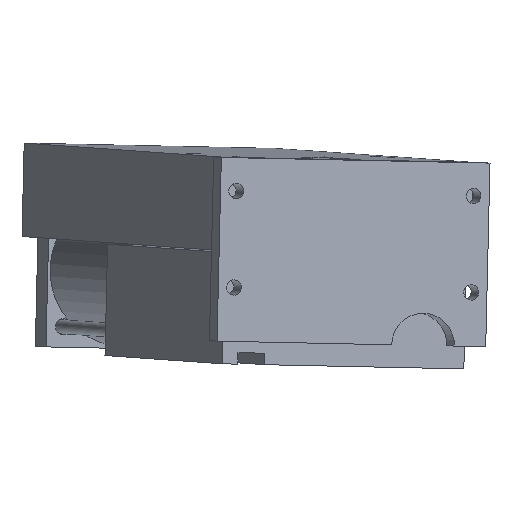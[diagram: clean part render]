
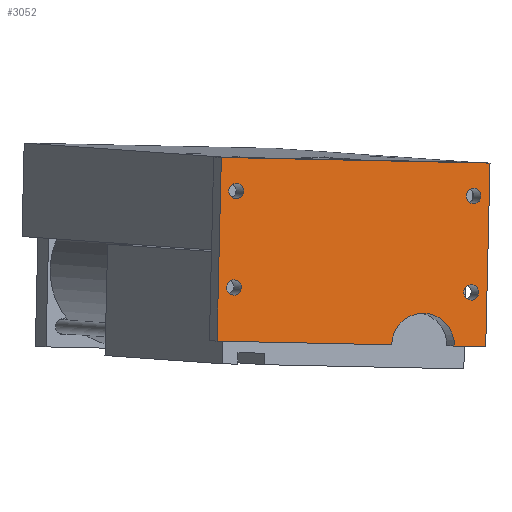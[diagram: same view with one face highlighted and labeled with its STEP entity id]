
A CAD part, front view. The second image highlights one B-rep face of the part: STEP entity #3052.
In plain terms, the highlighted planar face has unit normal (0.222, -0.975, -0.016).
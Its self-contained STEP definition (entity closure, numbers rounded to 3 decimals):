
#2716=CARTESIAN_POINT('',(87.14,-129.59,95.102));
#2717=VERTEX_POINT('',#2716);
#2718=CARTESIAN_POINT('',(83.9,-130.327,95.17));
#2719=DIRECTION('',(-0.222,0.975,0.016));
#2720=DIRECTION('',(0.975,0.222,-0.02));
#2721=AXIS2_PLACEMENT_3D('',#2718,#2719,#2720);
#2722=CIRCLE('',#2721,3.324);
#2723=EDGE_CURVE('',#2717,#2717,#2722,.T.);
#2757=CARTESIAN_POINT('',(-16.195,-153.109,97.268));
#2758=VERTEX_POINT('',#2757);
#2759=CARTESIAN_POINT('',(-19.435,-153.846,97.336));
#2760=DIRECTION('',(-0.222,0.975,0.016));
#2761=DIRECTION('',(0.975,0.222,-0.02));
#2762=AXIS2_PLACEMENT_3D('',#2759,#2760,#2761);
#2763=CIRCLE('',#2762,3.324);
#2764=EDGE_CURVE('',#2758,#2758,#2763,.T.);
#2814=CARTESIAN_POINT('',(88.122,-130.038,137.088));
#2815=VERTEX_POINT('',#2814);
#2816=CARTESIAN_POINT('',(84.882,-130.776,137.156));
#2817=DIRECTION('',(-0.222,0.975,0.016));
#2818=DIRECTION('',(0.975,0.222,-0.02));
#2819=AXIS2_PLACEMENT_3D('',#2816,#2817,#2818);
#2820=CIRCLE('',#2819,3.324);
#2821=EDGE_CURVE('',#2815,#2815,#2820,.T.);
#2863=CARTESIAN_POINT('',(-15.214,-153.557,139.254));
#2864=VERTEX_POINT('',#2863);
#2865=CARTESIAN_POINT('',(-18.453,-154.295,139.322));
#2866=DIRECTION('',(-0.222,0.975,0.016));
#2867=DIRECTION('',(0.975,0.222,-0.02));
#2868=AXIS2_PLACEMENT_3D('',#2865,#2866,#2867);
#2869=CIRCLE('',#2868,3.324);
#2870=EDGE_CURVE('',#2864,#2864,#2869,.T.);
#2880=CARTESIAN_POINT('',(92.045,-129.378,151.509));
#2881=VERTEX_POINT('',#2880);
#2882=CARTESIAN_POINT('',(90.175,-128.523,71.535));
#2883=VERTEX_POINT('',#2882);
#2884=CARTESIAN_POINT('',(92.045,-129.378,151.509));
#2885=DIRECTION('',(-0.023,0.011,-1.));
#2886=VECTOR('',#2885,80.0);
#2887=LINE('',#2884,#2886);
#2888=EDGE_CURVE('',#2881,#2883,#2887,.T.);
#2911=CARTESIAN_POINT('',(76.526,-131.629,71.821));
#2912=VERTEX_POINT('',#2911);
#2913=CARTESIAN_POINT('',(90.175,-128.523,71.535));
#2914=DIRECTION('',(-0.975,-0.222,0.02));
#2915=VECTOR('',#2914,14.);
#2916=LINE('',#2913,#2915);
#2917=EDGE_CURVE('',#2883,#2912,#2916,.T.);
#2935=CARTESIAN_POINT('',(49.23,-137.842,72.393));
#2936=VERTEX_POINT('',#2935);
#2937=CARTESIAN_POINT('',(62.878,-134.736,72.107));
#2938=DIRECTION('',(0.222,-0.975,-0.016));
#2939=DIRECTION('',(0.975,0.222,-0.02));
#2940=AXIS2_PLACEMENT_3D('',#2937,#2938,#2939);
#2941=CIRCLE('',#2940,14.);
#2942=EDGE_CURVE('',#2912,#2936,#2941,.T.);
#2960=CARTESIAN_POINT('',(-26.809,-155.148,73.986));
#2961=VERTEX_POINT('',#2960);
#2962=CARTESIAN_POINT('',(49.23,-137.842,72.393));
#2963=DIRECTION('',(-0.975,-0.222,0.02));
#2964=VECTOR('',#2963,78.);
#2965=LINE('',#2962,#2964);
#2966=EDGE_CURVE('',#2936,#2961,#2965,.T.);
#2984=CARTESIAN_POINT('',(-24.939,-156.003,153.96));
#2985=VERTEX_POINT('',#2984);
#2986=CARTESIAN_POINT('',(-26.809,-155.148,73.986));
#2987=DIRECTION('',(0.023,-0.011,1.));
#2988=VECTOR('',#2987,80.0);
#2989=LINE('',#2986,#2988);
#2990=EDGE_CURVE('',#2961,#2985,#2989,.T.);
#3008=CARTESIAN_POINT('',(-24.939,-156.003,153.96));
#3009=DIRECTION('',(0.975,0.222,-0.02));
#3010=VECTOR('',#3009,120.);
#3011=LINE('',#3008,#3010);
#3012=EDGE_CURVE('',#2985,#2881,#3011,.T.);
#3027=CARTESIAN_POINT('',(33.801,-141.983,112.035));
#3028=DIRECTION('',(0.222,-0.975,-0.016));
#3029=DIRECTION('',(0.975,0.222,-0.02));
#3030=AXIS2_PLACEMENT_3D('',#3027,#3028,#3029);
#3031=PLANE('',#3030);
#3032=ORIENTED_EDGE('',*,*,#2888,.F.);
#3033=ORIENTED_EDGE('',*,*,#3012,.F.);
#3034=ORIENTED_EDGE('',*,*,#2990,.F.);
#3035=ORIENTED_EDGE('',*,*,#2966,.F.);
#3036=ORIENTED_EDGE('',*,*,#2942,.F.);
#3037=ORIENTED_EDGE('',*,*,#2917,.F.);
#3038=EDGE_LOOP('',(#3032,#3033,#3034,#3035,#3036,#3037));
#3039=FACE_OUTER_BOUND('',#3038,.T.);
#3040=ORIENTED_EDGE('',*,*,#2723,.T.);
#3041=EDGE_LOOP('',(#3040));
#3042=FACE_BOUND('',#3041,.T.);
#3043=ORIENTED_EDGE('',*,*,#2764,.T.);
#3044=EDGE_LOOP('',(#3043));
#3045=FACE_BOUND('',#3044,.T.);
#3046=ORIENTED_EDGE('',*,*,#2821,.T.);
#3047=EDGE_LOOP('',(#3046));
#3048=FACE_BOUND('',#3047,.T.);
#3049=ORIENTED_EDGE('',*,*,#2870,.T.);
#3050=EDGE_LOOP('',(#3049));
#3051=FACE_BOUND('',#3050,.T.);
#3052=ADVANCED_FACE('',(#3039,#3042,#3045,#3048,#3051),#3031,.T.);
